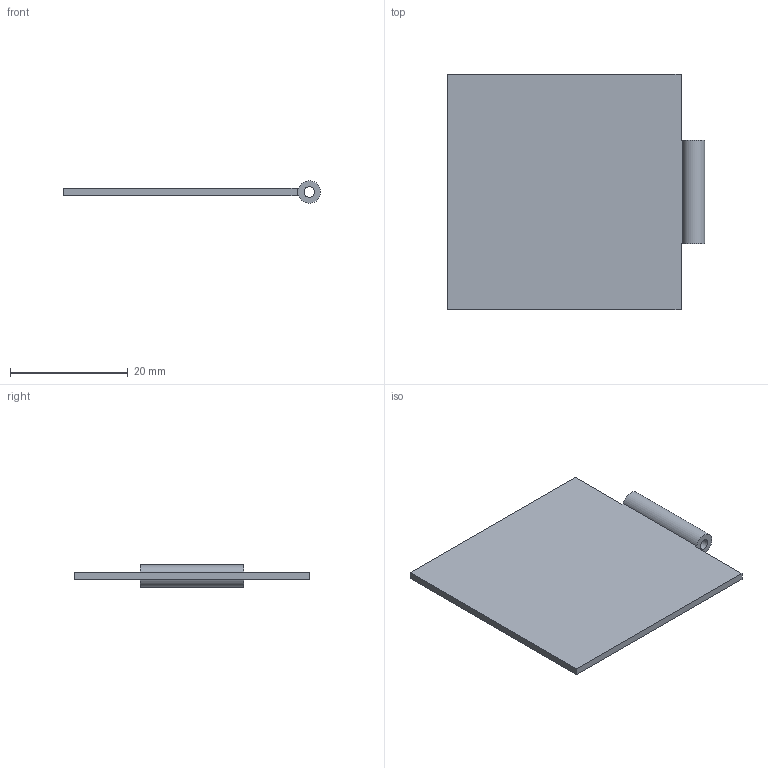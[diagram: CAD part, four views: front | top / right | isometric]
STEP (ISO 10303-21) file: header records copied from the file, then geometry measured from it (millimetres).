
FILE_DESCRIPTION(('Open CASCADE Model'),'2;1');
FILE_NAME('battery_lid','2026-11-19T17:25:15',('Author'),('Open CASCADE' ),'Open CASCADE STEP processor 7.8','build123d','Unknown');
FILE_SCHEMA(('AUTOMOTIVE_DESIGN { 1 0 10303 214 1 1 1 1 }'));
Length unit declared in the file: millimetre
Products named in the file (1): battery_lid
Bounding box: 43.59 x 40 x 3.79 mm (x, y, z)
Volume: 2060.5 mm3; surface area: 3654.7 mm2
Topology: 1 solids, 1 shells, 11 faces, 27 edges, 18 vertices
Faces by surface type: plane 9, cylinder 2
Full cylindrical faces by diameter (mm): 1.8 x1
Entity records: 696 total; most frequent: CARTESIAN_POINT 123, DIRECTION 102, LINE 67, VECTOR 67, ORIENTED_EDGE 54, PCURVE 54, DEFINITIONAL_REPRESENTATION 54, EDGE_CURVE 27
